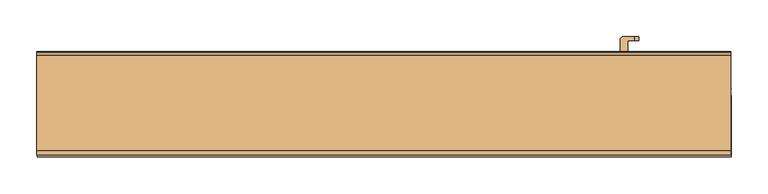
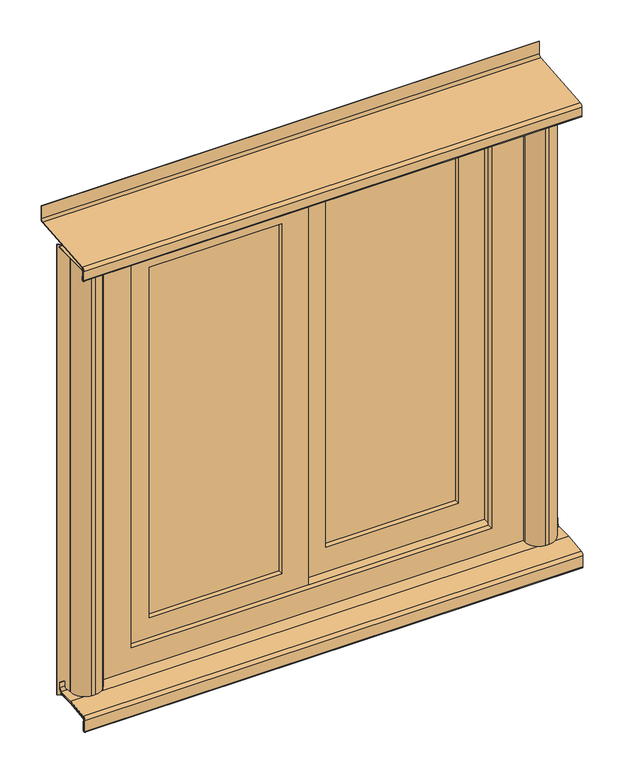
"""IFC4 building model written with IfcOpenShell, lengths in millimetres: door geometry, Fenetre pour Tenda V : Fenetre pour Tenda V."""

from ifc_helpers import new_model, si_unit, point, frame, frame_2d, origin, origin_with_axes, place, context, project, spatial, polyline, circle_curve, trimmed, segment, composite_curve, outline, extrude, faceted_brep, source, transform, mapped, element, save
from ifc_brep_helpers import plane_surface, cylinder_surface, advanced_brep


def door_f6b7c099(model_context):
    return source(origin(), model_context, "Body", "SolidModel", [
        advanced_brep(
        [(320.5, 60.7721751, 400.0), (322.9686818, 63.2408569, 400.0), (339.5477825, 63.2408569, 400.0), (339.5477825, 58.2408569, 400.0), (330.5, 58.2408569, 400.0), (330.5, 43.2408569, 400.0), (320.5, 43.2408569, 400.0), (320.5, 60.7721751, 500.0), (320.5, 43.2408569, 500.0), (330.5, 43.2408569, 500.0), (330.5, 58.2408569, 500.0), (339.5477825, 58.2408569, 500.0), (339.5477825, 63.2408569, 500.0), (322.9686818, 63.2408569, 500.0), (345.5, 58.2408569, 405.9522175), (345.5, 58.2408569, 494.0477825), (345.5, 63.2408569, 405.9522175), (345.5, 63.2408569, 494.0477825)],
        [
            (0, 1),
            (1, 2),
            (2, 3),
            (3, 4),
            (4, 5),
            (5, 6),
            (6, 0),
            (7, 8),
            (8, 9),
            (9, 10),
            (10, 11),
            (11, 12),
            (12, 13),
            (13, 7),
            (6, 8),
            (7, 0),
            (5, 9),
            (4, 10),
            (3, 14, circle_curve(frame((339.5477825, 58.2408569, 405.9522175), z_axis=(0.0, -1.0, 0.0), x_axis=(1.0, 0.0, 0.0)), 5.9522175)),
            (14, 15),
            (15, 11, circle_curve(frame((339.5477825, 58.2408569, 494.0477825), z_axis=(0.0, -1.0, 0.0), x_axis=(1.0, 0.0, 0.0)), 5.9522175)),
            (14, 16),
            (16, 17),
            (17, 15),
            (12, 17, circle_curve(frame((339.5477825, 63.2408569, 494.0477825), z_axis=(0.0, 1.0, 0.0), x_axis=(1.0, 0.0, 0.0)), 5.9522175)),
            (16, 2, circle_curve(frame((339.5477825, 63.2408569, 405.9522175), z_axis=(0.0, 1.0, 0.0), x_axis=(1.0, 0.0, 0.0)), 5.9522175)),
            (1, 13),
        ],
        [
            plane_surface(frame((320.5, 43.2408569, 400.0), z_axis=(0.0, 0.0, -1.0), x_axis=(0.0, -1.0, 0.0))),
            plane_surface(frame((320.5, 43.2408569, 500.0), z_axis=(0.0, 0.0, 1.0), x_axis=(0.0, 1.0, 0.0))),
            plane_surface(frame((320.5, 60.7721751, 400.0), z_axis=(-1.0, 0.0, 0.0), x_axis=(0.0, 0.0, 1.0))),
            plane_surface(frame((320.5, 43.2408569, 400.0), z_axis=(0.0, -1.0, 0.0), x_axis=(0.0, 0.0, 1.0))),
            plane_surface(frame((330.5, 43.2408569, 400.0), z_axis=(1.0, 0.0, 0.0), x_axis=(0.0, 0.0, 1.0))),
            plane_surface(frame((330.5, 58.2408569, 400.0), z_axis=(0.0, -1.0, 0.0), x_axis=(0.0, 0.0, 1.0))),
            plane_surface(frame((345.5, 58.2408569, 400.0), z_axis=(1.0, 0.0, 0.0), x_axis=(0.0, 0.0, 1.0))),
            plane_surface(frame((345.5, 63.2408569, 400.0), z_axis=(0.0, 1.0, 0.0), x_axis=(0.0, 0.0, 1.0))),
            plane_surface(frame((322.9686818, 63.2408569, 400.0), z_axis=(-0.7071067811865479, 0.7071067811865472, 0.0), x_axis=(0.0, 0.0, 1.0))),
            cylinder_surface(frame((339.5477825, 58.2408569, 494.0477825), z_axis=(0.0, -1.0, 0.0), x_axis=(1.0, 0.0, 0.0)), 5.9522175),
            cylinder_surface(frame((339.5477825, 58.2408569, 405.9522175), z_axis=(0.0, -1.0, 0.0), x_axis=(1.0, 0.0, 0.0)), 5.9522175),
        ],
        [
            (0, [[1, 2, 3, 4, 5, 6, 7]]),
            (1, [[8, 9, 10, 11, 12, 13, 14]]),
            (2, [[15, -8, 16, -7]]),
            (3, [[17, -9, -15, -6]]),
            (4, [[18, -10, -17, -5]]),
            (5, [[-4, 19, 20, 21, -11, -18]]),
            (6, [[22, 23, 24, -20]]),
            (7, [[-13, 25, -23, 26, -2, 27]]),
            (8, [[-16, -14, -27, -1]]),
            (9, [[-21, -24, -25, -12]]),
            (10, [[-26, -22, -19, -3]]),
        ],
    ),
        advanced_brep(
        [(-320.5, 30.7721751, 400.0), (-320.5, 13.2408569, 400.0), (-330.5, 13.2408569, 400.0), (-330.5, 28.2408569, 400.0), (-339.5477825, 28.2408569, 400.0), (-339.5477825, 33.2408569, 400.0), (-322.9686818, 33.2408569, 400.0), (-320.5, 30.7721751, 500.0), (-322.9686818, 33.2408569, 500.0), (-339.5477825, 33.2408569, 500.0), (-339.5477825, 28.2408569, 500.0), (-330.5, 28.2408569, 500.0), (-330.5, 13.2408569, 500.0), (-320.5, 13.2408569, 500.0), (-345.5, 28.2408569, 494.0477825), (-345.5, 28.2408569, 405.9522175), (-345.5, 33.2408569, 494.0477825), (-345.5, 33.2408569, 405.9522175)],
        [
            (0, 1),
            (1, 2),
            (2, 3),
            (3, 4),
            (4, 5),
            (5, 6),
            (6, 0),
            (7, 8),
            (8, 9),
            (9, 10),
            (10, 11),
            (11, 12),
            (12, 13),
            (13, 7),
            (0, 7),
            (13, 1),
            (12, 2),
            (11, 3),
            (10, 14, circle_curve(frame((-339.5477825, 28.2408569, 494.0477825), z_axis=(0.0, -1.0, 0.0), x_axis=(-1.0, 0.0, 0.0)), 5.9522175)),
            (14, 15),
            (15, 4, circle_curve(frame((-339.5477825, 28.2408569, 405.9522175), z_axis=(0.0, -1.0, 0.0), x_axis=(-1.0, 0.0, 0.0)), 5.9522175)),
            (14, 16),
            (16, 17),
            (17, 15),
            (8, 6),
            (5, 17, circle_curve(frame((-339.5477825, 33.2408569, 405.9522175), z_axis=(0.0, 1.0, 0.0), x_axis=(-1.0, 0.0, 0.0)), 5.9522175)),
            (16, 9, circle_curve(frame((-339.5477825, 33.2408569, 494.0477825), z_axis=(0.0, 1.0, 0.0), x_axis=(-1.0, 0.0, 0.0)), 5.9522175)),
        ],
        [
            plane_surface(frame((-320.5, 13.2408569, 400.0), z_axis=(0.0, 0.0, -1.0), x_axis=(0.0, -1.0, 0.0))),
            plane_surface(frame((-320.5, 13.2408569, 500.0), z_axis=(0.0, 0.0, 1.0), x_axis=(0.0, 1.0, 0.0))),
            plane_surface(frame((-320.5, 30.7721751, 400.0), z_axis=(1.0, 0.0, 0.0), x_axis=(0.0, 0.0, 1.0))),
            plane_surface(frame((-320.5, 13.2408569, 400.0), z_axis=(0.0, -1.0, 0.0), x_axis=(0.0, 0.0, 1.0))),
            plane_surface(frame((-330.5, 13.2408569, 400.0), z_axis=(-1.0, 0.0, 0.0), x_axis=(0.0, 0.0, 1.0))),
            plane_surface(frame((-330.5, 28.2408569, 400.0), z_axis=(0.0, -1.0, 0.0), x_axis=(0.0, 0.0, 1.0))),
            plane_surface(frame((-345.5, 28.2408569, 400.0), z_axis=(-1.0, 0.0, 0.0), x_axis=(0.0, 0.0, 1.0))),
            plane_surface(frame((-345.5, 33.2408569, 400.0), z_axis=(0.0, 1.0, 0.0), x_axis=(0.0, 0.0, 1.0))),
            plane_surface(frame((-322.9686818, 33.2408569, 400.0), z_axis=(0.7071067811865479, 0.7071067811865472, 0.0), x_axis=(0.0, 0.0, 1.0))),
            cylinder_surface(frame((-339.5477825, 28.2408569, 494.0477825), z_axis=(0.0, -1.0, 0.0), x_axis=(-1.0, 0.0, 0.0)), 5.9522175),
            cylinder_surface(frame((-339.5477825, 28.2408569, 405.9522175), z_axis=(0.0, -1.0, 0.0), x_axis=(-1.0, 0.0, 0.0)), 5.9522175),
        ],
        [
            (0, [[1, 2, 3, 4, 5, 6, 7]]),
            (1, [[8, 9, 10, 11, 12, 13, 14]]),
            (2, [[-1, 15, -14, 16]]),
            (3, [[-2, -16, -13, 17]]),
            (4, [[-3, -17, -12, 18]]),
            (5, [[-18, -11, 19, 20, 21, -4]]),
            (6, [[-20, 22, 23, 24]]),
            (7, [[25, -6, 26, -23, 27, -9]]),
            (8, [[-7, -25, -8, -15]]),
            (9, [[-10, -27, -22, -19]]),
            (10, [[-5, -21, -24, -26]]),
        ],
    ),
        faceted_brep([(-340.5, -16.7591431, 840.0), (340.5, -16.7591431, 840.0), (340.5, -26.7591431, 840.0), (-340.5, -26.7591431, 840.0), (-350.5, 43.2408569, 850.0), (350.5, 43.2408569, 850.0), (350.5, -16.7591431, 850.0), (-350.5, -16.7591431, 850.0), (-400.5, -26.7591431, 900.0), (400.5, -26.7591431, 900.0), (400.5, 43.2408569, 900.0), (-400.5, 43.2408569, 900.0), (340.5, -16.7591431, 60.0), (340.5, -26.7591431, 60.0), (350.5, 43.2408569, 50.0), (350.5, -16.7591431, 50.0), (400.5, -26.7591431, 0.0), (400.5, 43.2408569, 0.0), (-340.5, -16.7591431, 60.0), (-340.5, -26.7591431, 60.0), (-350.5, 43.2408569, 50.0), (-350.5, -16.7591431, 50.0), (-400.5, -26.7591431, 0.0), (-400.5, 43.2408569, 0.0)], [[[0, 1, 2, 3]], [[4, 5, 6, 7]], [[8, 9, 10, 11]], [[1, 12, 13, 2]], [[5, 14, 15, 6]], [[9, 16, 17, 10]], [[12, 18, 19, 13]], [[14, 20, 21, 15]], [[16, 22, 23, 17]], [[9, 8, 22, 16], [3, 2, 13, 19]], [[18, 0, 3, 19]], [[7, 6, 15, 21], [1, 0, 18, 12]], [[20, 4, 7, 21]], [[11, 10, 17, 23], [5, 4, 20, 14]], [[22, 8, 11, 23]]]),
        extrude(outline(polyline([(850.0, 0.0), (850.0, -350.5), (50.0, -350.5), (50.0, 0.0), (850.0, 0.0)]), holes=[polyline([(800.0, -300.5), (800.0, -50.0), (100.0, -50.0), (100.0, -300.5), (800.0, -300.5)])]), frame((0.0, -16.7591431, 0.0), z_axis=(0.0, 1.0, 0.0), x_axis=(0.0, 0.0, 1.0)), (0.0, 0.0, 1.0), 30.0),
        extrude(outline(polyline([(-300.5, -7.7591431), (-300.5, 4.2408569), (-50.0, 4.2408569), (-50.0, -7.7591431), (-300.5, -7.7591431)])), frame((0.0, 0.0, 100.0), z_axis=(0.0, 0.0, 1.0), x_axis=(1.0, 0.0, 0.0)), (0.0, 0.0, 1.0), 700.0),
        extrude(outline(polyline([(50.0, 0.0), (50.0, 350.5), (850.0, 350.5), (850.0, 0.0), (50.0, 0.0)]), holes=[polyline([(100.0, 300.5), (100.0, 50.0), (800.0, 50.0), (800.0, 300.5), (100.0, 300.5)])]), frame((0.0, 13.2408569, 0.0), z_axis=(0.0, 1.0, 0.0), x_axis=(0.0, 0.0, 1.0)), (0.0, 0.0, 1.0), 30.0),
        extrude(outline(polyline([(50.0, 22.2408569), (50.0, 34.2408569), (300.5, 34.2408569), (300.5, 22.2408569), (50.0, 22.2408569)])), frame((0.0, 0.0, 100.0), z_axis=(0.0, 0.0, 1.0), x_axis=(1.0, 0.0, 0.0)), (0.0, 0.0, 1.0), 700.0),
        extrude(outline(composite_curve([segment(polyline([(-92.2439175, 905.2723483), (37.6766356, 916.6389239)]), True, "CONTINUOUS"), segment(trimmed(circle_curve(frame_2d((37.2408569, 921.6198974)), 5.0), [point((37.6766356, 916.6389239))], [point((42.2408569, 921.6198974))], True, "CARTESIAN"), True, "CONTINUOUS"), segment(polyline([(42.2408569, 921.6198974), (42.2408569, 946.1633549), (43.2408569, 946.1633549), (43.2408569, 921.3908146)]), True, "CONTINUOUS"), segment(trimmed(circle_curve(frame_2d((37.4908569, 921.3908146)), 5.75), [point((43.2408569, 921.3908146))], [point((37.9920024, 915.6626951))], False, "CARTESIAN"), True, "CONTINUOUS"), segment(polyline([(37.9920024, 915.6626951), (-91.9285507, 904.2961195)]), True, "CONTINUOUS"), segment(trimmed(circle_curve(frame_2d((-91.492772, 899.315146)), 5.0), [point((-91.9285507, 904.2961195))], [point((-96.492772, 899.315146))], True, "CARTESIAN"), True, "CONTINUOUS"), segment(polyline([(-96.492772, 899.315146), (-96.492772, 882.0809)]), True, "CONTINUOUS"), segment(trimmed(circle_curve(frame_2d((-94.492772, 882.0809)), 2.0), [point((-96.492772, 882.0809))], [point((-92.492772, 882.0809))], True, "CARTESIAN"), True, "CONTINUOUS"), segment(polyline([(-92.492772, 882.0809), (-92.492772, 887.0809), (-91.492772, 887.0809), (-91.492772, 882.0809)]), True, "CONTINUOUS"), segment(trimmed(circle_curve(frame_2d((-94.492772, 882.0809)), 3.0), [point((-91.492772, 882.0809))], [point((-97.492772, 882.0809))], False, "CARTESIAN"), True, "CONTINUOUS"), segment(polyline([(-97.492772, 882.0809), (-97.492772, 899.5442288)]), True, "CONTINUOUS"), segment(trimmed(circle_curve(frame_2d((-91.742772, 899.5442288)), 5.75), [point((-97.492772, 899.5442288))], [point((-92.2439175, 905.2723483))], False, "CARTESIAN"), True, "CONTINUOUS")], self_intersect=False)), frame((-470.9992145, 0.0, 0.0), z_axis=(1.0, 0.0, 0.0), x_axis=(0.0, 1.0, 0.0)), (0.0, 0.0, 1.0), 941.5301791),
        extrude(outline(composite_curve([segment(polyline([(-89.242772, 901.0), (-16.7591431, 901.0), (-16.7591431, 900.0), (-88.992772, 900.0)]), True, "CONTINUOUS"), segment(trimmed(circle_curve(frame_2d((-88.992772, 895.0)), 5.0), [point((-88.992772, 900.0))], [point((-93.992772, 895.0))], True, "CARTESIAN"), True, "CONTINUOUS"), segment(polyline([(-93.992772, 895.0), (-93.992772, 885.0), (-94.992772, 885.0), (-94.992772, 895.25)]), True, "CONTINUOUS"), segment(trimmed(circle_curve(frame_2d((-89.242772, 895.25)), 5.75), [point((-94.992772, 895.25))], [point((-89.242772, 901.0))], False, "CARTESIAN"), True, "CONTINUOUS")], self_intersect=False)), frame((-470.9992145, 0.0, 0.0), z_axis=(1.0, 0.0, 0.0), x_axis=(0.0, 1.0, 0.0)), (0.0, 0.0, 1.0), 941.5301791),
        extrude(outline(composite_curve([segment(trimmed(circle_curve(frame_2d((-425.5, -31.7591431)), 25.0), [point((-400.5, -31.7591431))], [point((-425.5, -56.7591431))], False, "CARTESIAN"), True, "CONTINUOUS"), segment(polyline([(-425.5, -56.7591431), (-432.7054608, -56.7591431)]), True, "CONTINUOUS"), segment(trimmed(circle_curve(frame_2d((-432.7054608, -31.7591431)), 25.0), [point((-432.7054608, -56.7591431))], [point((-457.7054608, -31.7591431))], False, "CARTESIAN"), True, "CONTINUOUS"), segment(polyline([(-457.7054608, -31.7591431), (-457.7054608, -29.7379301)]), True, "CONTINUOUS"), segment(trimmed(circle_curve(frame_2d((-482.7054608, -29.7379301)), 25.0), [point((-457.7054608, -29.7379301))], [point((-470.9992145, -7.6480275))], True, "CARTESIAN"), True, "CONTINUOUS"), segment(polyline([(-470.9992145, -7.6480275), (-470.5309646, -6.7644313)]), True, "CONTINUOUS"), segment(trimmed(circle_curve(frame_2d((-482.7054608, -29.7379301)), 26.0), [point((-470.5309646, -6.7644313))], [point((-456.7054608, -29.7379301))], False, "CARTESIAN"), True, "CONTINUOUS"), segment(polyline([(-456.7054608, -29.7379301), (-456.7054608, -31.7591431)]), True, "CONTINUOUS"), segment(trimmed(circle_curve(frame_2d((-432.7054608, -31.7591431)), 24.0), [point((-456.7054608, -31.7591431))], [point((-432.7054608, -55.7591431))], True, "CARTESIAN"), True, "CONTINUOUS"), segment(polyline([(-432.7054608, -55.7591431), (-425.5, -55.7591431)]), True, "CONTINUOUS"), segment(trimmed(circle_curve(frame_2d((-425.5, -31.7591431)), 24.0), [point((-425.5, -55.7591431))], [point((-401.5, -31.7591431))], True, "CARTESIAN"), True, "CONTINUOUS"), segment(polyline([(-401.5, -31.7591431), (-401.5, -30.0166386), (-401.5, 26.6304174), (-404.1043568, 36.3500091), (-403.1384309, 36.6088282), (-400.5, 26.7620699), (-400.5, -30.0166386), (-400.5, -31.7591431)]), True, "CONTINUOUS")], self_intersect=False)), origin_with_axes(), (0.0, 0.0, 1.0), 900.0),
        extrude(outline(composite_curve([segment(polyline([(400.5, -31.7591431), (400.5, 26.7620699), (403.1384309, 36.6088282), (404.1043568, 36.3500091), (401.5, 26.6304174), (401.5, -31.7591431)]), True, "CONTINUOUS"), segment(trimmed(circle_curve(frame_2d((425.5, -31.7591431)), 24.0), [point((401.5, -31.7591431))], [point((425.5, -55.7591431))], True, "CARTESIAN"), True, "CONTINUOUS"), segment(polyline([(425.5, -55.7591431), (432.7054608, -55.7591431)]), True, "CONTINUOUS"), segment(trimmed(circle_curve(frame_2d((432.7054608, -31.7591431)), 24.0), [point((432.7054608, -55.7591431))], [point((456.7054608, -31.7591431))], True, "CARTESIAN"), True, "CONTINUOUS"), segment(polyline([(456.7054608, -31.7591431), (456.7054608, -29.7379301)]), True, "CONTINUOUS"), segment(trimmed(circle_curve(frame_2d((482.7054608, -29.7379301)), 26.0), [point((456.7054608, -29.7379301))], [point((470.5309646, -6.7644313))], False, "CARTESIAN"), True, "CONTINUOUS"), segment(polyline([(470.5309646, -6.7644313), (470.9992145, -7.6480275)]), True, "CONTINUOUS"), segment(trimmed(circle_curve(frame_2d((482.7054608, -29.7379301)), 25.0), [point((470.9992145, -7.6480275))], [point((457.7054608, -29.7379301))], True, "CARTESIAN"), True, "CONTINUOUS"), segment(polyline([(457.7054608, -29.7379301), (457.7054608, -31.7591431)]), True, "CONTINUOUS"), segment(trimmed(circle_curve(frame_2d((432.7054608, -31.7591431)), 25.0), [point((457.7054608, -31.7591431))], [point((432.7054608, -56.7591431))], False, "CARTESIAN"), True, "CONTINUOUS"), segment(polyline([(432.7054608, -56.7591431), (425.5, -56.7591431)]), True, "CONTINUOUS"), segment(trimmed(circle_curve(frame_2d((425.5, -31.7591431)), 25.0), [point((425.5, -56.7591431))], [point((400.5, -31.7591431))], False, "CARTESIAN"), True, "CONTINUOUS")], self_intersect=False)), frame((0.0, 0.0, 13.8493885), z_axis=(0.0, 0.0, 1.0), x_axis=(1.0, 0.0, 0.0)), (0.0, 0.0, 1.0), 886.1506115),
        extrude(outline(composite_curve([segment(polyline([(-22.5091431, 13.8493885), (-52.6757766, 13.8493885), (-94.491071, 8.6070879)]), True, "CONTINUOUS"), segment(trimmed(circle_curve(frame_2d((-93.8690997, 3.6459235)), 5.0), [point((-94.491071, 8.6070879))], [point((-98.8690997, 3.6459235))], True, "CARTESIAN"), True, "CONTINUOUS"), segment(polyline([(-98.8690997, 3.6459235), (-98.8690997, -18.5280564)]), True, "CONTINUOUS"), segment(trimmed(circle_curve(frame_2d((-97.3690997, -18.5571543)), 1.5002822), [point((-98.8690997, -18.5280564))], [point((-95.8690997, -18.5280564))], True, "CARTESIAN"), True, "CONTINUOUS"), segment(polyline([(-95.8690997, -18.5280564), (-95.8690997, -1.0254457), (-94.8690997, -1.0254457), (-94.8690997, -18.5280564)]), True, "CONTINUOUS"), segment(trimmed(circle_curve(frame_2d((-97.3690997, -18.5254444)), 2.5000014), [point((-94.8690997, -18.5280564))], [point((-99.8690997, -18.5280564))], False, "CARTESIAN"), True, "CONTINUOUS"), segment(polyline([(-99.8690997, -18.5280564), (-99.8690997, 3.9004098)]), True, "CONTINUOUS"), segment(trimmed(circle_curve(frame_2d((-94.1190997, 3.9004098)), 5.75), [point((-99.8690997, 3.9004098))], [point((-94.8343667, 9.6057488))], False, "CARTESIAN"), True, "CONTINUOUS"), segment(polyline([(-94.8343667, 9.6057488), (-53.6757766, 14.7657197), (-22.7591431, 14.7657197)]), True, "CONTINUOUS"), segment(trimmed(circle_curve(frame_2d((-22.7591431, 19.7657197)), 5.0), [point((-22.7591431, 14.7657197))], [point((-17.7591431, 19.7657197))], True, "CARTESIAN"), True, "CONTINUOUS"), segment(polyline([(-17.7591431, 19.7657197), (-17.7591431, 29.7657197), (-16.7591431, 29.7657197), (-16.7591431, 19.5993885)]), True, "CONTINUOUS"), segment(trimmed(circle_curve(frame_2d((-22.5091431, 19.5993885)), 5.75), [point((-16.7591431, 19.5993885))], [point((-22.5091431, 13.8493885))], False, "CARTESIAN"), True, "CONTINUOUS")], self_intersect=False)), frame((-470.5309646, 0.0, 0.0), z_axis=(1.0, 0.0, 0.0), x_axis=(0.0, 1.0, 0.0)), (0.0, 0.0, 1.0), 941.5301791),
        extrude(outline(composite_curve([segment(polyline([(-92.9885508, 5.1441609), (-53.4234998, 10.1581669), (-20.0166386, 10.1581669), (-20.0166386, 9.2418357), (-52.4234998, 9.2418357), (-92.6442588, 4.144733)]), True, "CONTINUOUS"), segment(trimmed(circle_curve(frame_2d((-92.0156457, -0.8155942)), 5.0), [point((-92.6442588, 4.144733))], [point((-97.0156457, -0.8155942))], True, "CARTESIAN"), True, "CONTINUOUS"), segment(polyline([(-97.0156457, -0.8155942), (-97.0156457, -18.7572246), (-98.0156457, -18.7572246), (-98.0156457, -0.5602154)]), True, "CONTINUOUS"), segment(trimmed(circle_curve(frame_2d((-92.2656457, -0.5602154)), 5.75), [point((-98.0156457, -0.5602154))], [point((-92.9885508, 5.1441609))], False, "CARTESIAN"), True, "CONTINUOUS")], self_intersect=False)), frame((-470.5309646, 0.0, 0.0), z_axis=(1.0, 0.0, 0.0), x_axis=(0.0, 1.0, 0.0)), (0.0, 0.0, 1.0), 941.5301791),
    ])


if __name__ == "__main__":
    model = new_model("IFC4")
    model_context = context("Model", 3, world=origin())
    ifc_project = project(units=[si_unit("LENGTHUNIT", "METRE", prefix="MILLI")], contexts=[model_context])
    site = spatial("IfcSite", under=ifc_project)
    building = spatial("IfcBuilding", under=site)
    placement = place(None, origin())
    door_shape = door_f6b7c099(model_context)
    element("IfcDoor", 1, ObjectType="Fenetre pour Tenda V : Fenetre pour Tenda V", at=placement, inside=building, context=model_context, shape_type="MappedRepresentation", body=[
        mapped(door_shape, transform((0.0, 0.0, 0.0), x_axis=(1.0, 0.0, 0.0), y_axis=(0.0, 1.0, 0.0), z_axis=(0.0, 0.0, 1.0))),
    ])
    save(model, "model.ifc")
